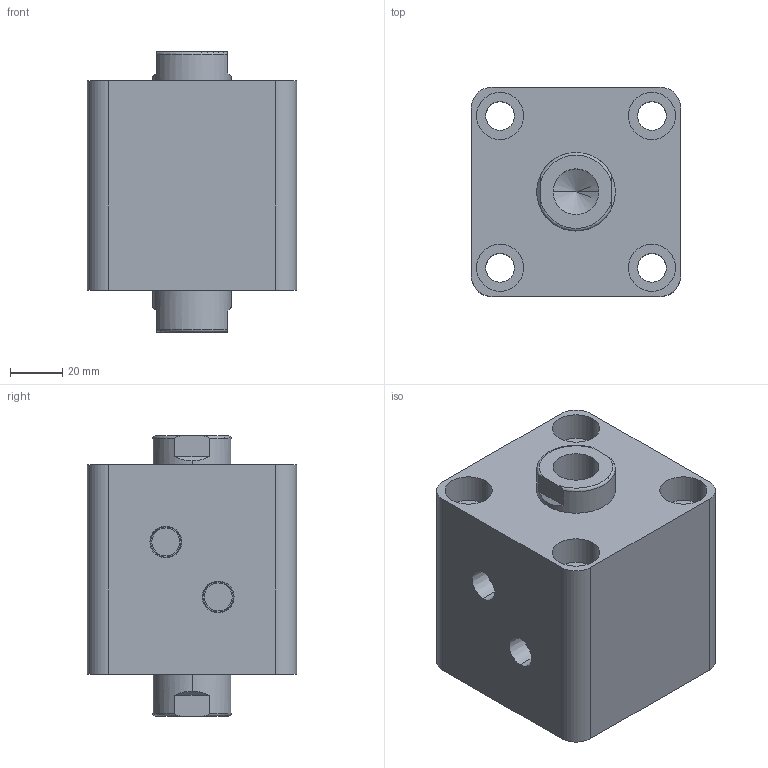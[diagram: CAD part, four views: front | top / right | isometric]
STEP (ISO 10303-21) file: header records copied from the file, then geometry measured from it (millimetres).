
FILE_DESCRIPTION (( 'STEP AP203' ), '1' );
FILE_NAME ('HTB-SW50-5N.STEP', '2019-10-07T09:16:27', ( '微软用户' ), ( '微软中国' ), 'SwSTEP 2.0', 'SolidWorks 2012', '' );
FILE_SCHEMA (( 'CONFIG_CONTROL_DESIGN' ));
Length unit declared in the file: millimetre
Products named in the file (3): HTB-SW50-5N; HTB-SW50-5N活塞杆; HTB-SW50-5掛极
Assembly tree (2 placements, depth 2):
  HTB-SW50-5N
    HTB-SW50-5掛极
    HTB-SW50-5N活塞杆
Bounding box: 80 x 80 x 107 mm (x, y, z)
Volume: 460586.7 mm3; surface area: 78425.3 mm2
Topology: 2 solids, 2 shells, 100 faces, 228 edges, 146 vertices
Faces by surface type: cylinder 48, plane 32, torus 12, cone 8
Entity records: 3237 total; most frequent: CARTESIAN_POINT 595, DIRECTION 542, ORIENTED_EDGE 448, AXIS2_PLACEMENT_3D 229, EDGE_CURVE 224, VERTEX_POINT 146, EDGE_LOOP 128, CIRCLE 124
